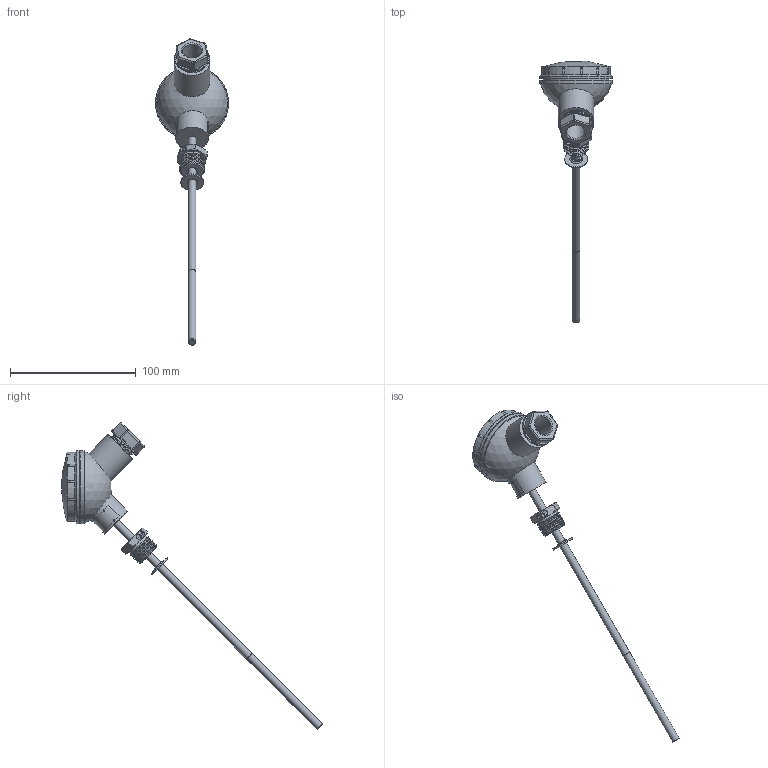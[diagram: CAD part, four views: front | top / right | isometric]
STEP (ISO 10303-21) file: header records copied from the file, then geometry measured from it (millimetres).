
FILE_DESCRIPTION(('STEP AP242'), '1');
FILE_NAME('栖闉罻 3.1.06.02', '', ('UNSPECIFIED'), ('UNSPECIFIED'), 'ASCON STEP Converter 1.6', 'ASCON Math Kernel', '');
FILE_SCHEMA(('AP242_MANAGED_MODEL_BASED_3D_ENGINEERING_MIM_LF { 1 0 10303 442 1 1 4 }'));
Length unit declared in the file: millimetre
Products named in the file (13): Сборка405111-001угл; Шайба 758480-006; Шайба 4; Прокладка 754100-000; Винт 715341-000; Гайка М4; Заглушка 754100-001; Крышка 735214-000; Кожух 731196-000-00; Шайба 758480-001-01; Трубка 723110-004; Гайка 758480-000
Assembly tree (21 placements, depth 3):
  Сборка405111-001угл
    Шайба 758480-006  x4
    Шайба 4  x4
    Прокладка 754100-000
    Винт 715341-000
    Гайка М4  x4
    Заглушка 754100-001
    Крышка 735214-000
    Кожух 731196-000-00
    (unnamed)
      Шайба 758480-001-01
      Трубка 723110-004
      Гайка 758480-000
Bounding box: 58 x 207.23 x 243.28 mm (x, y, z)
Volume: 71846.4 mm3; surface area: 47648.1 mm2
Topology: 23 solids, 23 shells, 561 faces, 1421 edges, 901 vertices
Faces by surface type: cylinder 238, plane 189, bspline 56, cone 54, torus 16, sphere 8
Full cylindrical faces by diameter (mm): 1.6 x1, 4 x7, 4.2 x4, 5 x2, 6 x5, 6.5 x1, 9 x4, 12 x2, 15 x1, 15.4 x1, 18 x1, 18.94 x1, 19.2 x1, 20 x1, 26 x1, 28 x2, 44 x1, 47 x2, 48 x1, 52 x1, 53 x1, 54 x1, 55 x1, 58 x2
Entity records: 90200 total; most frequent: CARTESIAN_POINT 75956, ORIENTED_EDGE 2154, DIRECTION 1670, EDGE_CURVE 1077, VERTEX_POINT 731, AXIS2_PLACEMENT_3D 677, EDGE_LOOP 560, B_SPLINE_CURVE_WITH_KNOTS 484
